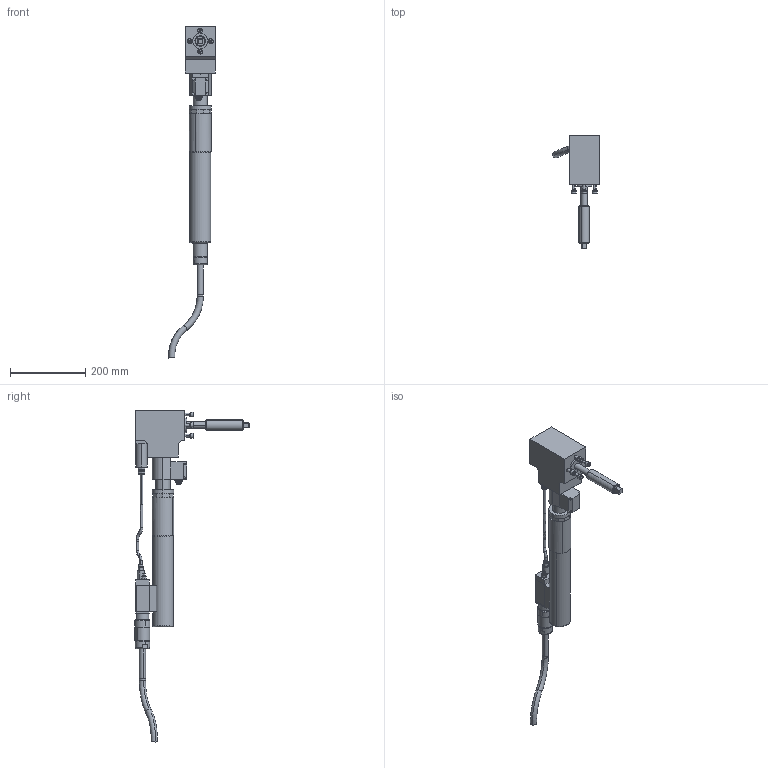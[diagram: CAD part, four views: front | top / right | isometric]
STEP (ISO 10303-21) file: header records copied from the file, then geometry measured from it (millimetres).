
FILE_DESCRIPTION(('CATIA V5 STEP Exchange'),'2;1');
FILE_NAME('C:\pro\7920329_ECR211_DWR120_AWD250-120_AllCATPart.stp','2008-11-10T09:31:22+00:00',('none'),('none'),'CATIA Version 5 Release 17 (IN-10)','CATIA V5 STEP AP203','none');
FILE_SCHEMA(('CONFIG_CONTROL_DESIGN'));
Length unit declared in the file: millimetre
Products named in the file (1): 7920329_ECR211_DWR120_AWD250-120_AllCATPart
Bounding box: 123.82 x 302.98 x 881.16 mm (x, y, z)
Volume: 2793461.9 mm3; surface area: 273138 mm2
Topology: 20 solids, 20 shells, 495 faces, 1107 edges, 688 vertices
Faces by surface type: plane 234, cylinder 167, cone 52, torus 42
Entity records: 12807 total; most frequent: CARTESIAN_POINT 2549, ORIENTED_EDGE 2190, DIRECTION 1761, EDGE_CURVE 1095, AXIS2_PLACEMENT_3D 830, VERTEX_POINT 688, VECTOR 577, LINE 577
